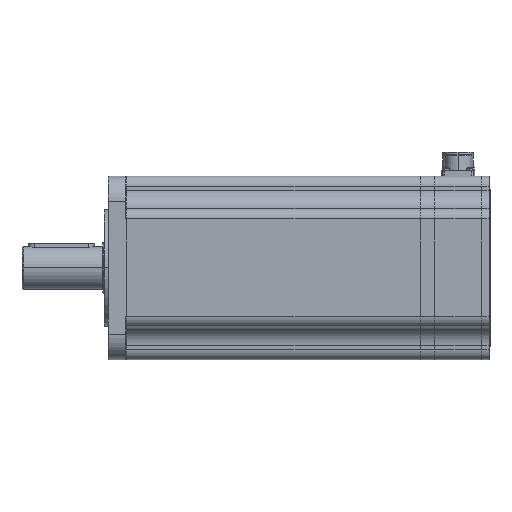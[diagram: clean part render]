
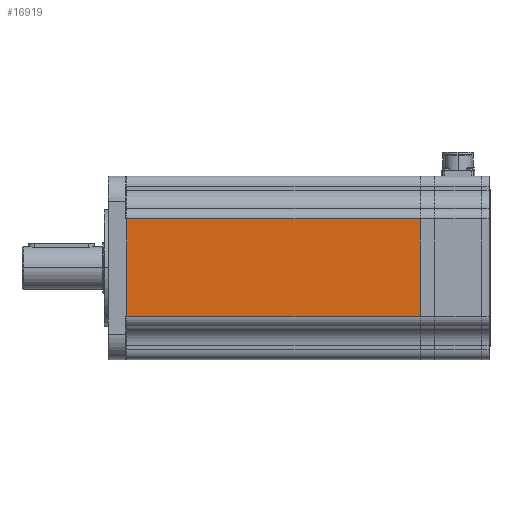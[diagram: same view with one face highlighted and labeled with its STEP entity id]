
A CAD part, top view. The second image highlights one B-rep face of the part: STEP entity #16919.
In plain terms, the highlighted planar face has unit normal (0, 0, 1).
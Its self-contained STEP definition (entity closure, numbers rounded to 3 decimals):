
#2154 = DIRECTION ( 'NONE',  ( -1., 0., 0. ) ) ;
#3128 = VERTEX_POINT ( 'NONE', #41200 ) ;
#6115 = DIRECTION ( 'NONE',  ( -1., 0., 0. ) ) ;
#6362 = FACE_OUTER_BOUND ( 'NONE', #53596, .T. ) ;
#11110 = CARTESIAN_POINT ( 'NONE',  ( 288., 48., 90. ) ) ;
#13069 = CARTESIAN_POINT ( 'NONE',  ( 288., 48., 90. ) ) ;
#13885 = CARTESIAN_POINT ( 'NONE',  ( 0., -48., 90. ) ) ;
#15275 = ORIENTED_EDGE ( 'NONE', *, *, #27567, .T. ) ;
#16919 = ADVANCED_FACE ( 'NONE', ( #6362 ), #37554, .F. ) ;
#18580 = VECTOR ( 'NONE', #27022, 1000. ) ;
#19262 = VERTEX_POINT ( 'NONE', #43258 ) ;
#21313 = DIRECTION ( 'NONE',  ( -1., 0., 0. ) ) ;
#21438 = ORIENTED_EDGE ( 'NONE', *, *, #48939, .F. ) ;
#23621 = VECTOR ( 'NONE', #36246, 1000. ) ;
#25372 = CARTESIAN_POINT ( 'NONE',  ( 288., -48., 90. ) ) ;
#25434 = VECTOR ( 'NONE', #2154, 1000. ) ;
#26414 = LINE ( 'NONE', #13885, #23621 ) ;
#27022 = DIRECTION ( 'NONE',  ( 0., -1., 0. ) ) ;
#27567 = EDGE_CURVE ( 'NONE', #3128, #19262, #26414, .T. ) ;
#29135 = EDGE_CURVE ( 'NONE', #50227, #30633, #37555, .T. ) ;
#29710 = AXIS2_PLACEMENT_3D ( 'NONE', #50947, #50554, #6115 ) ;
#30633 = VERTEX_POINT ( 'NONE', #25372 ) ;
#32470 = VECTOR ( 'NONE', #21313, 1000. ) ;
#36246 = DIRECTION ( 'NONE',  ( 0., -1., 0. ) ) ;
#36809 = EDGE_CURVE ( 'NONE', #50227, #3128, #40174, .T. ) ;
#37554 = PLANE ( 'NONE',  #29710 ) ;
#37555 = LINE ( 'NONE', #40781, #18580 ) ;
#38806 = LINE ( 'NONE', #50553, #25434 ) ;
#40174 = LINE ( 'NONE', #13069, #32470 ) ;
#40781 = CARTESIAN_POINT ( 'NONE',  ( 288., -48., 90. ) ) ;
#41200 = CARTESIAN_POINT ( 'NONE',  ( 0., 48., 90. ) ) ;
#43258 = CARTESIAN_POINT ( 'NONE',  ( 0., -48., 90. ) ) ;
#48939 = EDGE_CURVE ( 'NONE', #30633, #19262, #38806, .T. ) ;
#49126 = ORIENTED_EDGE ( 'NONE', *, *, #29135, .F. ) ;
#50227 = VERTEX_POINT ( 'NONE', #11110 ) ;
#50456 = ORIENTED_EDGE ( 'NONE', *, *, #36809, .T. ) ;
#50553 = CARTESIAN_POINT ( 'NONE',  ( 288., -48., 90. ) ) ;
#50554 = DIRECTION ( 'NONE',  ( 0., 0., -1. ) ) ;
#50947 = CARTESIAN_POINT ( 'NONE',  ( 288., -48., 90. ) ) ;
#53596 = EDGE_LOOP ( 'NONE', ( #15275, #21438, #49126, #50456 ) ) ;
